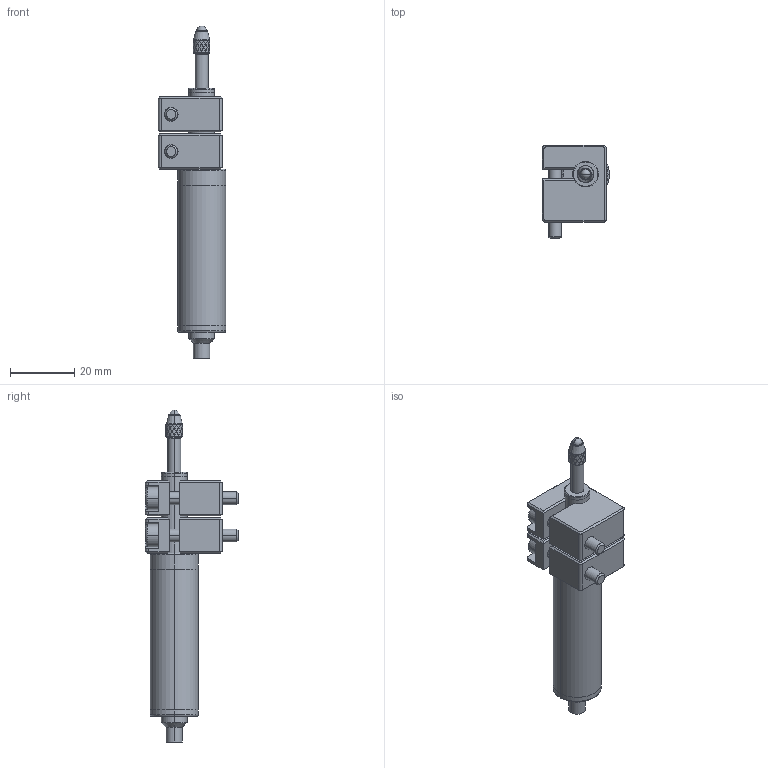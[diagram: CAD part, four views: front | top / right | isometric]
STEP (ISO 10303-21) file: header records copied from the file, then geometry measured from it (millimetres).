
FILE_DESCRIPTION (( 'STEP AP214' ), '1' );
FILE_NAME ('BYGTM-10mm-DL-Y.STEP', '2026-01-15T05:34:10', ( '' ), ( '' ), 'SwSTEP 2.0', 'SolidWorks 2025', '' );
FILE_SCHEMA (( 'AUTOMOTIVE_DESIGN' ));
Length unit declared in the file: millimetre
Products named in the file (1): BYGTM-10mm-DL-Y
Bounding box: 21 x 29.1 x 103.7 mm (x, y, z)
Volume: 19819.9 mm3; surface area: 11534.9 mm2
Topology: 13 solids, 13 shells, 532 faces, 1177 edges, 682 vertices
Faces by surface type: bspline 240, cylinder 139, plane 99, cone 42, torus 10, sphere 2
Entity records: 16412 total; most frequent: CARTESIAN_POINT 6364, ORIENTED_EDGE 2342, DIRECTION 1439, EDGE_CURVE 1171, VERTEX_POINT 680, B_SPLINE_CURVE_WITH_KNOTS 580, EDGE_LOOP 565, AXIS2_PLACEMENT_3D 563
